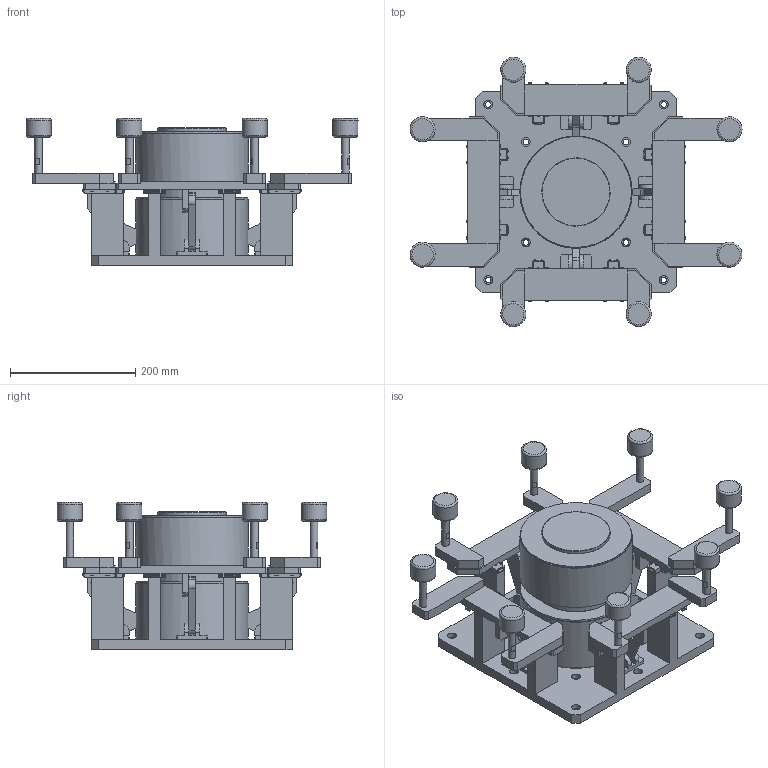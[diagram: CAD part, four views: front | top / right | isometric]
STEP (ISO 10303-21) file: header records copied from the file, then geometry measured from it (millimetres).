
FILE_DESCRIPTION(/* description */ (''),/* implementation_level */ '2;1');
FILE_NAME(/* name */ 'A:\업무자료\03. 개발\홍보자료제작\홈페이지(BKCI)\20181008 이전이력\첨부자료\STEP 파일\EF4A\EF4A UP.stp',/* time_stamp */ '2018-11-30T13:23:18+09:00',/* author */ ('idt-l'),/* organization */ (''),/* preprocessor_version */ 'ST-DEVELOPER v16.13',/* originating_system */ 'Autodesk Inventor 2018',/* authorisation */ '');
FILE_SCHEMA (('AUTOMOTIVE_DESIGN { 1 0 10303 214 3 1 1 }'));
Length unit declared in the file: millimetre
Products named in the file (1): EF4A UP
Bounding box: 529.83 x 429.84 x 235 mm (x, y, z)
Volume: 8688670.6 mm3; surface area: 795518.3 mm2
Topology: 1 solids, 33 shells, 1484 faces, 3439 edges, 2167 vertices
Faces by surface type: plane 1017, cylinder 405, cone 46, torus 16
Full cylindrical faces by diameter (mm): 2.459 x16, 3.242 x48, 4 x8, 4.917 x16, 6 x48, 8 x4, 9 x12, 12 x8, 14 x12, 40 x8, 80 x1, 109 x1, 129 x1, 130 x1, 177 x1, 178 x1, 179 x2, 179.2 x1
Entity records: 39868 total; most frequent: DIRECTION 6751, CARTESIAN_POINT 6643, ORIENTED_EDGE 6174, EDGE_CURVE 3087, LINE 2393, VECTOR 2393, AXIS2_PLACEMENT_3D 2179, VERTEX_POINT 2071
